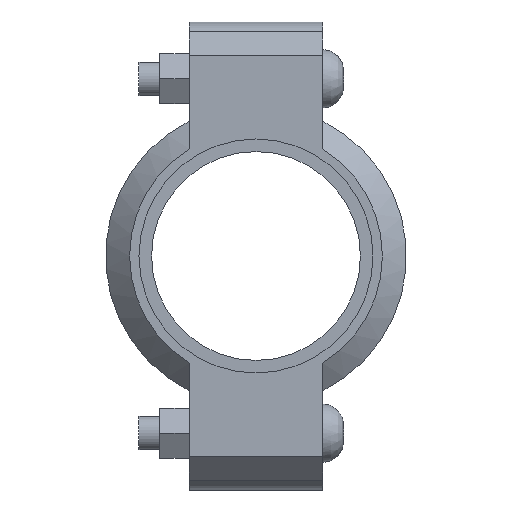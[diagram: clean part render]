
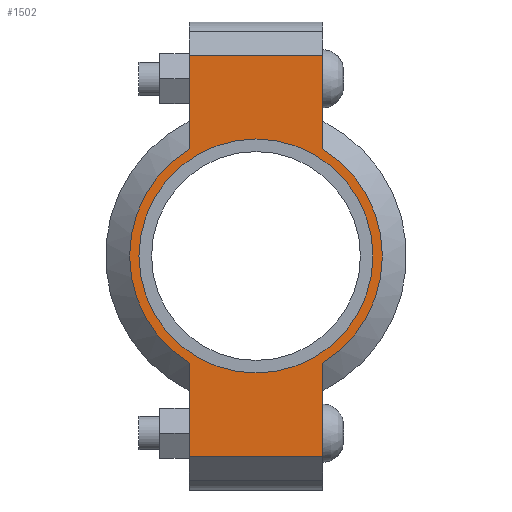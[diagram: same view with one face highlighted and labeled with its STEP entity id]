
A CAD part, left-side view. The second image highlights one B-rep face of the part: STEP entity #1502.
In plain terms, the highlighted planar face has unit normal (-1, 0, 0) as drawn and (0, 0, 1) by its records, which use the part's own axes.
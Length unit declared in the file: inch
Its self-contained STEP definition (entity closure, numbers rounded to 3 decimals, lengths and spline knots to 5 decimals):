
#126=LINE('',#2612,#219);
#134=LINE('',#2648,#227);
#141=LINE('',#2669,#234);
#150=LINE('',#2701,#243);
#151=LINE('',#2705,#244);
#152=LINE('',#2707,#245);
#219=VECTOR('',#2136,0.3937);
#227=VECTOR('',#2152,0.3937);
#234=VECTOR('',#2171,0.3937);
#243=VECTOR('',#2196,0.3937);
#244=VECTOR('',#2201,0.3937);
#245=VECTOR('',#2202,0.3937);
#301=FACE_BOUND('',#479,.T.);
#373=FACE_OUTER_BOUND('',#478,.T.);
#478=EDGE_LOOP('',(#1243,#1244,#1245,#1246,#1247,#1248,#1249,#1250));
#479=EDGE_LOOP('',(#1251));
#551=CIRCLE('',#1712,1.75);
#577=CIRCLE('',#1771,1.89);
#578=CIRCLE('',#1772,1.89);
#643=VERTEX_POINT('',#2428);
#686=VERTEX_POINT('',#2609);
#687=VERTEX_POINT('',#2611);
#698=VERTEX_POINT('',#2643);
#699=VERTEX_POINT('',#2647);
#706=VERTEX_POINT('',#2666);
#707=VERTEX_POINT('',#2668);
#717=VERTEX_POINT('',#2704);
#718=VERTEX_POINT('',#2706);
#799=EDGE_CURVE('',#643,#643,#551,.T.);
#860=EDGE_CURVE('',#687,#686,#126,.T.);
#874=EDGE_CURVE('',#699,#698,#134,.T.);
#884=EDGE_CURVE('',#707,#706,#141,.T.);
#899=EDGE_CURVE('',#699,#686,#150,.T.);
#900=EDGE_CURVE('',#698,#707,#577,.T.);
#901=EDGE_CURVE('',#717,#706,#151,.T.);
#902=EDGE_CURVE('',#717,#718,#152,.T.);
#903=EDGE_CURVE('',#718,#687,#578,.T.);
#1243=ORIENTED_EDGE('',*,*,#899,.F.);
#1244=ORIENTED_EDGE('',*,*,#874,.T.);
#1245=ORIENTED_EDGE('',*,*,#900,.T.);
#1246=ORIENTED_EDGE('',*,*,#884,.T.);
#1247=ORIENTED_EDGE('',*,*,#901,.F.);
#1248=ORIENTED_EDGE('',*,*,#902,.T.);
#1249=ORIENTED_EDGE('',*,*,#903,.T.);
#1250=ORIENTED_EDGE('',*,*,#860,.T.);
#1251=ORIENTED_EDGE('',*,*,#799,.T.);
#1344=PLANE('',#1770);
#1502=ADVANCED_FACE('',(#373,#301),#1344,.T.);
#1712=AXIS2_PLACEMENT_3D('',#2430,#2012,#2013);
#1770=AXIS2_PLACEMENT_3D('',#2702,#2197,#2198);
#1771=AXIS2_PLACEMENT_3D('',#2703,#2199,#2200);
#1772=AXIS2_PLACEMENT_3D('',#2708,#2203,#2204);
#2012=DIRECTION('center_axis',(0.,0.,-1.));
#2013=DIRECTION('ref_axis',(-1.,0.,0.));
#2136=DIRECTION('',(-1.,0.,0.));
#2152=DIRECTION('',(1.,0.,0.));
#2171=DIRECTION('',(1.,0.,0.));
#2196=DIRECTION('',(0.,1.,0.));
#2197=DIRECTION('center_axis',(0.,0.,1.));
#2198=DIRECTION('ref_axis',(1.,0.,0.));
#2199=DIRECTION('center_axis',(0.,0.,1.));
#2200=DIRECTION('ref_axis',(-1.,0.,0.));
#2201=DIRECTION('',(0.,-1.,0.));
#2202=DIRECTION('',(-1.,0.,0.));
#2203=DIRECTION('center_axis',(0.,0.,1.));
#2204=DIRECTION('ref_axis',(-1.,0.,0.));
#2428=CARTESIAN_POINT('',(1.75,0.,0.94));
#2430=CARTESIAN_POINT('Origin',(0.,0.,0.94));
#2609=CARTESIAN_POINT('',(-3.,1.,0.94));
#2611=CARTESIAN_POINT('',(-1.60378,1.,0.94));
#2612=CARTESIAN_POINT('',(-3.5,1.,0.94));
#2643=CARTESIAN_POINT('',(-1.60378,-1.,0.94));
#2647=CARTESIAN_POINT('',(-3.,-1.,0.94));
#2648=CARTESIAN_POINT('',(3.5,-1.,0.94));
#2666=CARTESIAN_POINT('',(3.,-1.,0.94));
#2668=CARTESIAN_POINT('',(1.60378,-1.,0.94));
#2669=CARTESIAN_POINT('',(3.5,-1.,0.94));
#2701=CARTESIAN_POINT('',(-3.,0.5,0.94));
#2702=CARTESIAN_POINT('Origin',(0.,0.,
0.94));
#2703=CARTESIAN_POINT('Origin',(0.,0.,0.94));
#2704=CARTESIAN_POINT('',(3.,1.,0.94));
#2705=CARTESIAN_POINT('',(3.,-0.5,0.94));
#2706=CARTESIAN_POINT('',(1.60378,1.,0.94));
#2707=CARTESIAN_POINT('',(-3.5,1.,0.94));
#2708=CARTESIAN_POINT('Origin',(0.,0.,0.94));
